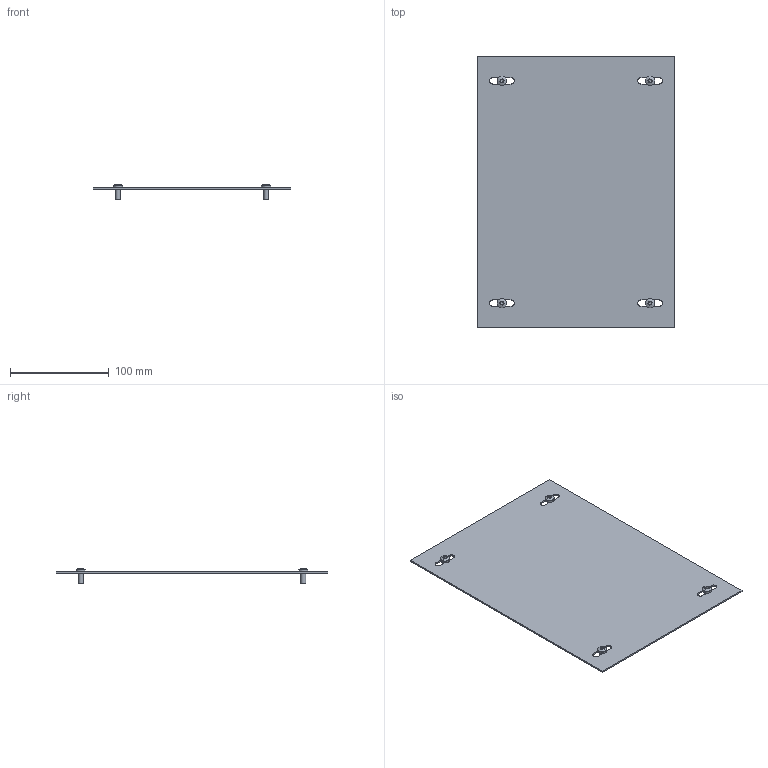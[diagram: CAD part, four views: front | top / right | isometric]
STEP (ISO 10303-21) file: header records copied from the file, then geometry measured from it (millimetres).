
FILE_DESCRIPTION(('Open CASCADE Model'),'2;1');
FILE_NAME('Open CASCADE Shape Model','2025-03-28T17:53:16',('Author'),( 'Open CASCADE'),'Open CASCADE STEP processor 7.8','Open CASCADE 7.8' ,'Unknown');
FILE_SCHEMA(('AUTOMOTIVE_DESIGN { 1 0 10303 214 1 1 1 1 }'));
Length unit declared in the file: millimetre
Products named in the file (3): Compound1; Solid1; Solid2
Assembly tree (5 placements, depth 2):
  Compound1
    Solid1
    Solid2  x4
Bounding box: 200 x 275 x 15.56 mm (x, y, z)
Volume: 83275.7 mm3; surface area: 112242.5 mm2
Topology: 5 solids, 5 shells, 86 faces, 180 edges, 108 vertices
Faces by surface type: plane 46, cylinder 16, torus 8, cone 8, sphere 4, bspline 4
Full cylindrical faces by diameter (mm): 5 x4, 9.5 x4
Entity records: 1508 total; most frequent: CARTESIAN_POINT 562, DIRECTION 190, ORIENTED_EDGE 178, EDGE_CURVE 89, AXIS2_PLACEMENT_3D 73, VERTEX_POINT 57, FACE_BOUND 48, EDGE_LOOP 48
